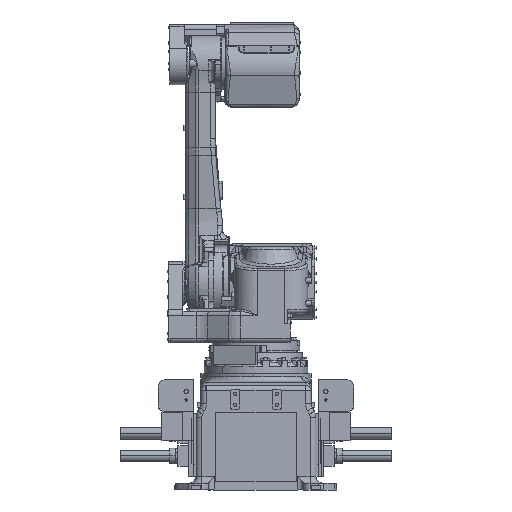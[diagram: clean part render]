
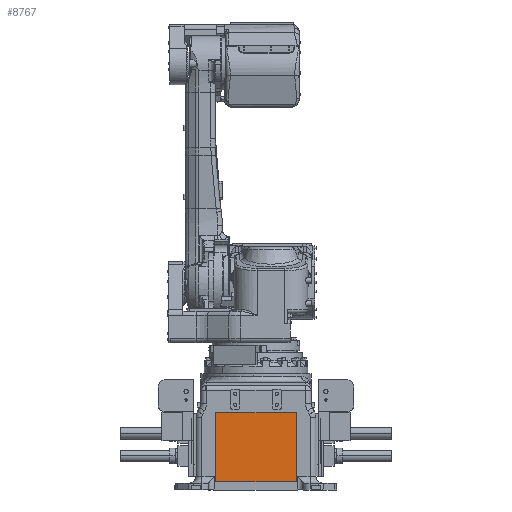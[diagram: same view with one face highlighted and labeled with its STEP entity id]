
A CAD part, front view. The second image highlights one B-rep face of the part: STEP entity #8767.
In plain terms, the highlighted planar face has unit normal (0, -1, 0).
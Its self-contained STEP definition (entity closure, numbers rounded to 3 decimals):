
#6054=CARTESIAN_POINT('Vertex',(175.,-416.8,335.)) ;
#6057=CARTESIAN_POINT('Line Origine',(175.,-416.8,185.)) ;
#6061=CARTESIAN_POINT('Vertex',(175.,-416.8,35.)) ;
#6081=CARTESIAN_POINT('Line Origine',(0.,-416.8,35.)) ;
#6085=CARTESIAN_POINT('Vertex',(-175.,-416.8,35.)) ;
#6105=CARTESIAN_POINT('Line Origine',(-175.,-416.8,185.)) ;
#6109=CARTESIAN_POINT('Vertex',(-175.,-416.8,335.)) ;
#6129=CARTESIAN_POINT('Line Origine',(0.,-416.8,335.)) ;
#8756=CARTESIAN_POINT('Axis2P3D Location',(0.,-416.8,185.)) ;
#6058=DIRECTION('Vector Direction',(0.,0.,1.)) ;
#6082=DIRECTION('Vector Direction',(1.,0.,0.)) ;
#6106=DIRECTION('Vector Direction',(0.,0.,-1.)) ;
#6130=DIRECTION('Vector Direction',(1.,0.,0.)) ;
#8757=DIRECTION('Axis2P3D Direction',(0.,-1.,0.)) ;
#8758=DIRECTION('Axis2P3D XDirection',(1.,0.,0.)) ;
#8759=AXIS2_PLACEMENT_3D('Plane Axis2P3D',#8756,#8757,#8758) ;
#8762=ORIENTED_EDGE('',*,*,#6133,.F.) ;
#8763=ORIENTED_EDGE('',*,*,#6111,.T.) ;
#8764=ORIENTED_EDGE('',*,*,#6087,.T.) ;
#8765=ORIENTED_EDGE('',*,*,#6063,.T.) ;
#6059=VECTOR('Line Direction',#6058,1.) ;
#6083=VECTOR('Line Direction',#6082,1.) ;
#6107=VECTOR('Line Direction',#6106,1.) ;
#6131=VECTOR('Line Direction',#6130,1.) ;
#8767=ADVANCED_FACE('J0',(#8766),#8760,.T.) ;
#6063=EDGE_CURVE('',#6062,#6055,#6060,.T.) ;
#6087=EDGE_CURVE('',#6086,#6062,#6084,.T.) ;
#6111=EDGE_CURVE('',#6110,#6086,#6108,.T.) ;
#6133=EDGE_CURVE('',#6110,#6055,#6132,.T.) ;
#8761=EDGE_LOOP('',(#8762,#8763,#8764,#8765)) ;
#8766=FACE_OUTER_BOUND('',#8761,.T.) ;
#6060=LINE('Line',#6057,#6059) ;
#6084=LINE('Line',#6081,#6083) ;
#6108=LINE('Line',#6105,#6107) ;
#6132=LINE('Line',#6129,#6131) ;
#8760=PLANE('',#8759) ;
#6055=VERTEX_POINT('',#6054) ;
#6062=VERTEX_POINT('',#6061) ;
#6086=VERTEX_POINT('',#6085) ;
#6110=VERTEX_POINT('',#6109) ;
